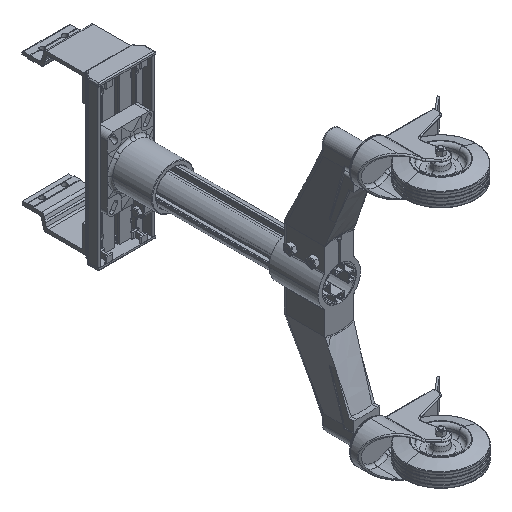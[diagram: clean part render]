
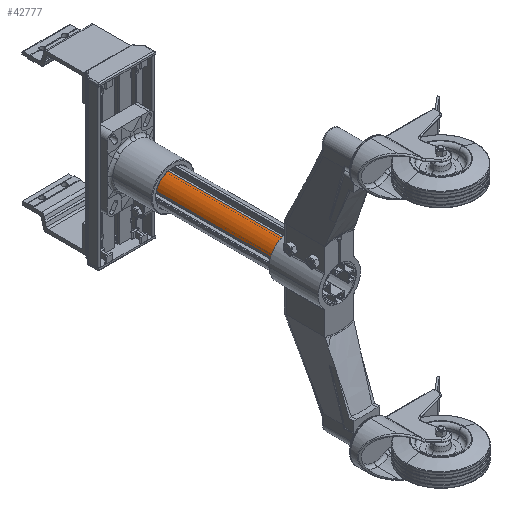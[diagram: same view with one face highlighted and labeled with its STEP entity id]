
A CAD part, isometric view. The second image highlights one B-rep face of the part: STEP entity #42777.
In plain terms, the highlighted cylindrical face has radius 30.15 mm (diameter 60.3 mm), a partial arc.
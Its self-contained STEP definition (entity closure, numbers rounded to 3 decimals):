
#8307 = CARTESIAN_POINT ( 'NONE',  ( -433.033, 313.517, 303.521 ) ) ;
#8567 = CARTESIAN_POINT ( 'NONE',  ( -453.786, -73.993, 282.769 ) ) ;
#9433 = CARTESIAN_POINT ( 'NONE',  ( -453.786, 313.517, 282.769 ) ) ;
#14218 = DIRECTION ( 'NONE',  ( 0., 1., 0. ) ) ;
#14219 = VECTOR ( 'NONE', #14218, 1000. ) ;
#14293 = CARTESIAN_POINT ( 'NONE',  ( -453.786, -73.993, 282.769 ) ) ;
#14294 = LINE ( 'NONE', #14293, #14219 ) ;
#14382 = DIRECTION ( 'NONE',  ( 0., 1., 0. ) ) ;
#14383 = VECTOR ( 'NONE', #14382, 1000. ) ;
#14384 = CARTESIAN_POINT ( 'NONE',  ( -433.033, -73.993, 303.521 ) ) ;
#14385 = LINE ( 'NONE', #14384, #14383 ) ;
#15455 = DIRECTION ( 'NONE',  ( 0., 0., 1. ) ) ;
#15459 = DIRECTION ( 'NONE',  ( 0., 1., 0. ) ) ;
#15461 = CARTESIAN_POINT ( 'NONE',  ( -424.786, -73.993, 274.521 ) ) ;
#15464 = AXIS2_PLACEMENT_3D ( 'NONE', #15461, #15459, #15455 ) ;
#15466 = CIRCLE ( 'NONE', #15464, 30.15 ) ;
#15547 = DIRECTION ( 'NONE',  ( 0., 0., 1. ) ) ;
#15549 = DIRECTION ( 'NONE',  ( 0., 1., 0. ) ) ;
#15551 = CARTESIAN_POINT ( 'NONE',  ( -424.786, 313.517, 274.521 ) ) ;
#15552 = AXIS2_PLACEMENT_3D ( 'NONE', #15551, #15549, #15547 ) ;
#15555 = CIRCLE ( 'NONE', #15552, 30.15 ) ;
#18856 = FACE_OUTER_BOUND ( 'NONE', #41262, .T. ) ;
#19054 = CARTESIAN_POINT ( 'NONE',  ( -424.786, -73.993, 274.521 ) ) ;
#19055 = CYLINDRICAL_SURFACE ( 'NONE', #19150, 30.15 ) ;
#19146 = DIRECTION ( 'NONE',  ( 0., 0., 1. ) ) ;
#19148 = DIRECTION ( 'NONE',  ( 0., 1., 0. ) ) ;
#19150 = AXIS2_PLACEMENT_3D ( 'NONE', #19054, #19148, #19146 ) ;
#30522 = VERTEX_POINT ( 'NONE', #33274 ) ;
#33274 = CARTESIAN_POINT ( 'NONE',  ( -433.033, -73.993, 303.521 ) ) ;
#37114 = ORIENTED_EDGE ( 'NONE', *, *, #38919, .T. ) ;
#37523 = VERTEX_POINT ( 'NONE', #8307 ) ;
#37595 = VERTEX_POINT ( 'NONE', #8567 ) ;
#37763 = VERTEX_POINT ( 'NONE', #9433 ) ;
#38919 = EDGE_CURVE ( 'NONE', #37595, #30522, #15466, .T. ) ;
#40604 = EDGE_CURVE ( 'NONE', #37595, #37763, #14294, .T. ) ;
#40717 = EDGE_CURVE ( 'NONE', #30522, #37523, #14385, .T. ) ;
#40888 = ORIENTED_EDGE ( 'NONE', *, *, #40717, .T. ) ;
#40945 = ORIENTED_EDGE ( 'NONE', *, *, #40957, .F. ) ;
#40957 = EDGE_CURVE ( 'NONE', #37763, #37523, #15555, .T. ) ;
#40975 = ORIENTED_EDGE ( 'NONE', *, *, #40604, .F. ) ;
#41262 = EDGE_LOOP ( 'NONE', ( #40945, #40975, #37114, #40888 ) ) ;
#42777 = ADVANCED_FACE ( 'NONE', ( #18856 ), #19055, .T. ) ;
